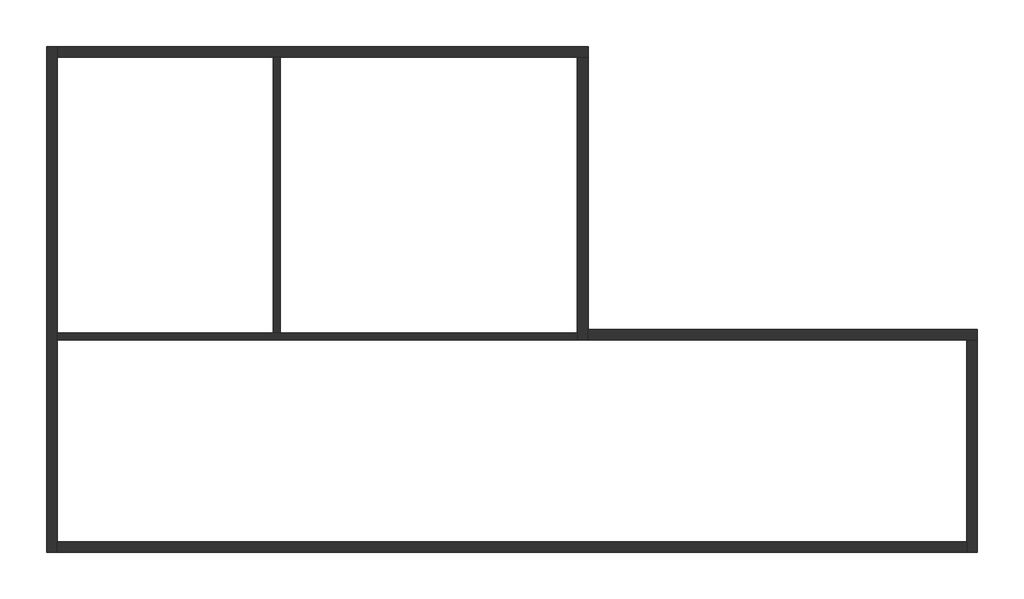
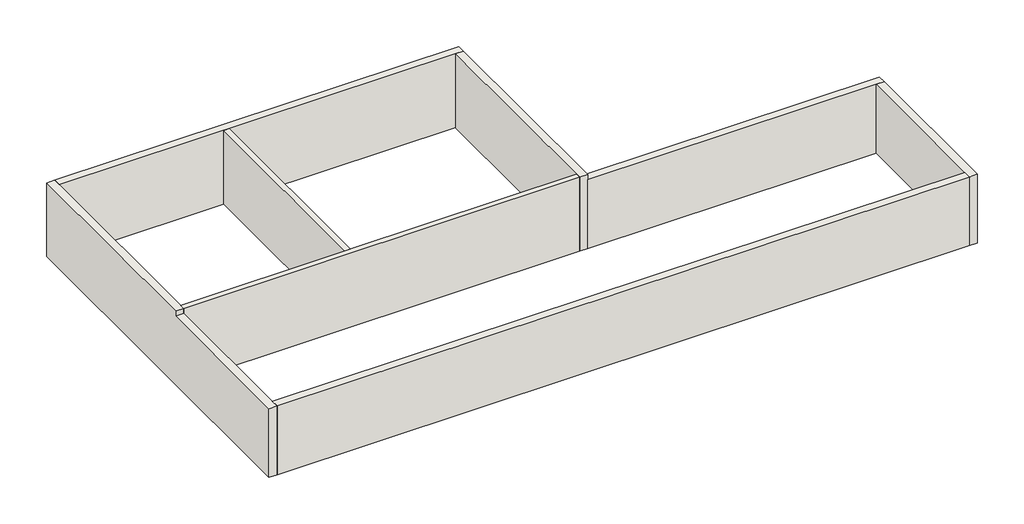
# One storey: 8 walls.
"""IFC4 building model written with IfcOpenShell, lengths in millimetres."""

from ifc_helpers import new_model, si_unit, origin, origin_with_axes, place, context, project, spatial, polyline, outline, extrude, faceted_brep, element, save

model = new_model("IFC4")

# Units and contexts
model_context = context("Model", 3, world=origin())
ifc_project = project(units=[si_unit("LENGTHUNIT", "METRE", prefix="MILLI")], contexts=[model_context])

# Site, building, storey
site = spatial("IfcSite", under=ifc_project)
building = spatial("IfcBuilding", under=site)
storey = spatial("IfcBuildingStorey", under=building, Name="标高 1", Elevation=0.0)

# Walls
placement = place(None, origin())
element("IfcWall", 1, ObjectType="常规 - 300mm", at=placement, inside=storey, context=model_context, shape_type="Brep", body=[
    faceted_brep([(-10608.6008349, -7014.5186164, 0.0), (-10608.6008349, -6714.5186164, 0.0), (-10608.6008349, 6985.4813836, 0.0), (-10608.6008349, 7285.4813836, 0.0), (-10608.6008349, 7285.4813836, 2900.0), (-10608.6008349, 6985.4813836, 2900.0), (-10608.6008349, -1014.5186164, 2900.0), (-10608.6008349, -1014.5186164, 2700.0), (-10608.6008349, -6714.5186164, 2700.0), (-10608.6008349, -7014.5186164, 2700.0), (-10908.6008349, -7014.5186164, 0.0), (-10908.6008349, -7014.5186164, 2700.0), (-10908.6008349, -1014.5186164, 2700.0), (-10908.6008349, -1014.5186164, 2900.0), (-10908.6008349, 7285.4813836, 2900.0), (-10908.6008349, 7285.4813836, 0.0)], [[[0, 1, 2, 3, 4, 5, 6, 7, 8, 9]], [[10, 11, 12, 13, 14, 15]], [[3, 2, 1, 0, 10, 15]], [[4, 3, 15, 14]], [[0, 9, 11, 10]], [[6, 5, 4, 14, 13]], [[6, 13, 12, 7]], [[9, 8, 7, 12, 11]]]),
])
element("IfcWall", 2, ObjectType="常规 - 300mm", at=placement, inside=storey, context=model_context, shape_type="Brep", body=[
    faceted_brep([(-10608.6008349, 6985.4813836, 0.0), (4091.3991651, 6985.4813836, 0.0), (4391.3991651, 6985.4813836, 0.0), (4391.3991651, 6985.4813836, 2900.0), (4091.3991651, 6985.4813836, 2900.0), (-10608.6008349, 6985.4813836, 2900.0), (-10608.6008349, 7285.4813836, 0.0), (-10608.6008349, 7285.4813836, 2900.0), (4391.3991651, 7285.4813836, 2900.0), (4391.3991651, 7285.4813836, 0.0)], [[[0, 1, 2, 3, 4, 5]], [[6, 7, 8, 9]], [[2, 1, 0, 6, 9]], [[0, 5, 7, 6]], [[3, 2, 9, 8]], [[5, 4, 3, 8, 7]]]),
])
element("IfcWall", 3, ObjectType="常规 - 300mm", at=placement, inside=storey, context=model_context, shape_type="Brep", body=[
    faceted_brep([(4091.3991651, 6985.4813836, 0.0), (4091.3991651, -1014.5186164, 0.0), (4091.3991651, -1014.5186164, 2900.0), (4091.3991651, 6985.4813836, 2900.0), (4391.3991651, 6985.4813836, 0.0), (4391.3991651, 6985.4813836, 2900.0), (4391.3991651, -1014.5186164, 2900.0), (4391.3991651, -1014.5186164, 2700.0), (4391.3991651, -1014.5186164, 0.0), (4391.3991651, -714.5186164, 0.0)], [[[0, 1, 2, 3]], [[4, 5, 6, 7, 8, 9]], [[1, 0, 4, 9, 8]], [[0, 3, 5, 4]], [[2, 1, 8, 7, 6]], [[3, 2, 6, 5]]]),
])
element("IfcWall", 4, ObjectType="常规 - 300mm", at=placement, inside=storey, context=model_context, shape_type="Brep", body=[
    faceted_brep([(4391.3991651, -1014.5186164, 0.0), (15091.3991651, -1014.5186164, 0.0), (15391.3991651, -1014.5186164, 0.0), (15391.3991651, -1014.5186164, 2700.0), (15091.3991651, -1014.5186164, 2700.0), (4391.3991651, -1014.5186164, 2700.0), (4391.3991651, -714.5186164, 0.0), (4391.3991651, -714.5186164, 2700.0), (15391.3991651, -714.5186164, 2700.0), (15391.3991651, -714.5186164, 0.0)], [[[0, 1, 2, 3, 4, 5]], [[6, 7, 8, 9]], [[2, 1, 0, 6, 9]], [[0, 5, 7, 6]], [[3, 2, 9, 8]], [[5, 4, 3, 8, 7]]]),
])
element("IfcWall", 5, ObjectType="常规 - 300mm", at=placement, inside=storey, context=model_context, shape_type="Brep", body=[
    faceted_brep([(15091.3991651, -1014.5186164, 0.0), (15091.3991651, -6714.5186164, 0.0), (15091.3991651, -7014.5186164, 0.0), (15091.3991651, -7014.5186164, 2700.0), (15091.3991651, -6714.5186164, 2700.0), (15091.3991651, -1014.5186164, 2700.0), (15391.3991651, -1014.5186164, 0.0), (15391.3991651, -1014.5186164, 2700.0), (15391.3991651, -7014.5186164, 2700.0), (15391.3991651, -7014.5186164, 0.0)], [[[0, 1, 2, 3, 4, 5]], [[6, 7, 8, 9]], [[2, 1, 0, 6, 9]], [[0, 5, 7, 6]], [[3, 2, 9, 8]], [[5, 4, 3, 8, 7]]]),
])
element("IfcWall", 6, ObjectType="常规 - 300mm", at=placement, inside=storey, context=model_context, shape_type="SweptSolid", body=[
    extrude(outline(polyline([(-10608.6008349, -6714.5186164), (15091.3991651, -6714.5186164), (15091.3991651, -7014.5186164), (-10608.6008349, -7014.5186164), (-10608.6008349, -6714.5186164)])), origin_with_axes(), (0.0, 0.0, 1.0), 2700.0),
])
element("IfcWall", 7, ObjectType="常规 - 200mm", at=placement, inside=storey, context=model_context, shape_type="SweptSolid", body=[
    extrude(outline(polyline([(-4508.6008349, -814.5186164), (-4508.6008349, 6985.4813836), (-4308.6008349, 6985.4813836), (-4308.6008349, -814.5186164), (-4508.6008349, -814.5186164)])), origin_with_axes(), (0.0, 0.0, 1.0), 2900.0),
])
element("IfcWall", 8, ObjectType="常规 - 200mm", at=placement, inside=storey, context=model_context, shape_type="Brep", body=[
    faceted_brep([(-10608.6008349, -1014.5186164, 0.0), (4091.3991651, -1014.5186164, 0.0), (4091.3991651, -1014.5186164, 2900.0), (-10608.6008349, -1014.5186164, 2900.0), (-10608.6008349, -814.5186164, 0.0), (-10608.6008349, -814.5186164, 2900.0), (-4508.6008349, -814.5186164, 2900.0), (-4308.6008349, -814.5186164, 2900.0), (4091.3991651, -814.5186164, 2900.0), (4091.3991651, -814.5186164, 0.0), (-4308.6008349, -814.5186164, 0.0), (-4508.6008349, -814.5186164, 0.0)], [[[0, 1, 2, 3]], [[4, 5, 6, 7, 8, 9, 10, 11]], [[1, 0, 4, 11, 10, 9]], [[0, 3, 5, 4]], [[2, 1, 9, 8]], [[3, 2, 8, 7, 6, 5]]]),
])

save(model, "model.ifc")
